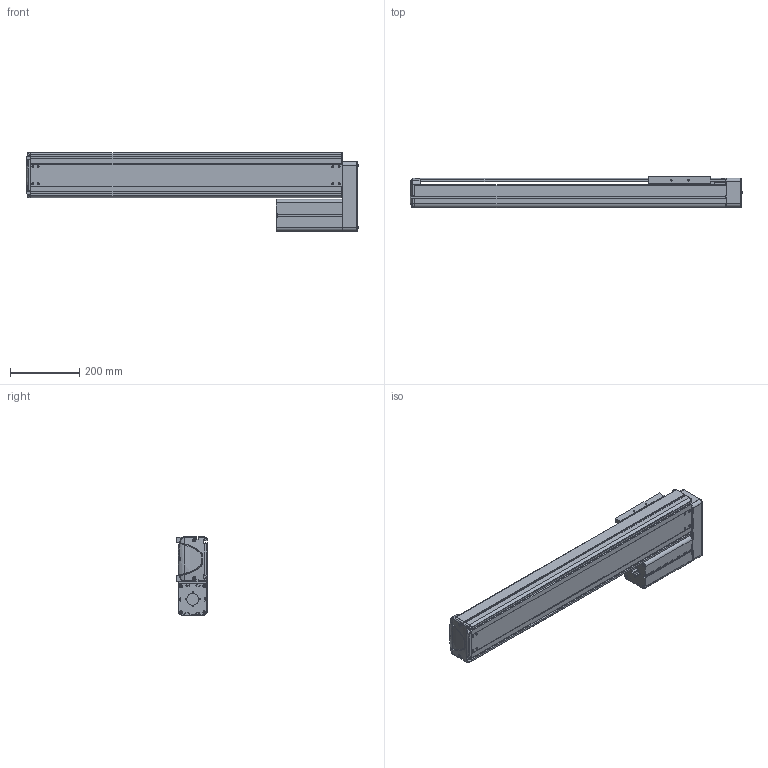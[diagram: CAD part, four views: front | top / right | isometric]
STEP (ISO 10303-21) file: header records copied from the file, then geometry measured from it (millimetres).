
FILE_DESCRIPTION((''),'2;1');
FILE_NAME('BE30E-UL-L_B-65_IGS_PRT','2017-06-17T',(' '),(''),'PRO/ENGINEER BY PARAMETRIC TECHNOLOGY CORPORATION, 2015030','PRO/ENGINEER BY PARAMETRIC TECHNOLOGY CORPORATION, 2015030','');
FILE_SCHEMA(('CONFIG_CONTROL_DESIGN'));
Products named in the file (1): BE30E-UL-L_B-65_IGS_PRT
Bounding box: 961.9 x 89.8 x 227 mm (x, y, z)
Volume: 3339818.9 mm3; surface area: 1462749 mm2
Topology: 2 solids, 124 shells, 2036 faces, 5490 edges, 3572 vertices
Faces by surface type: plane 994, cylinder 851, cone 101, torus 38, bspline 28, sphere 24
Entity records: 65984 total; most frequent: CARTESIAN_POINT 13971, DIRECTION 10997, ORIENTED_EDGE 10443, EDGE_CURVE 5452, AXIS2_PLACEMENT_3D 3879, VERTEX_POINT 3572, VECTOR 3239, LINE 3239
